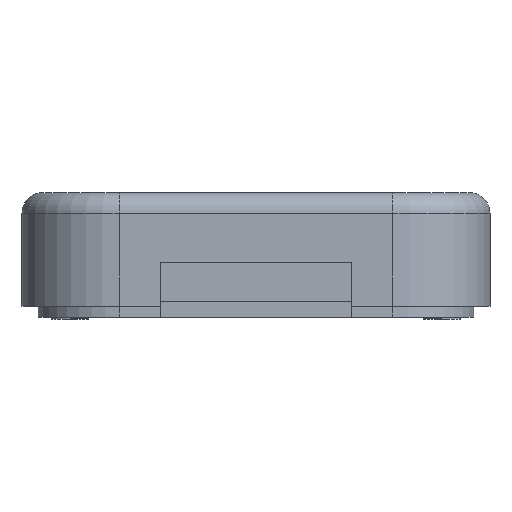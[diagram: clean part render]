
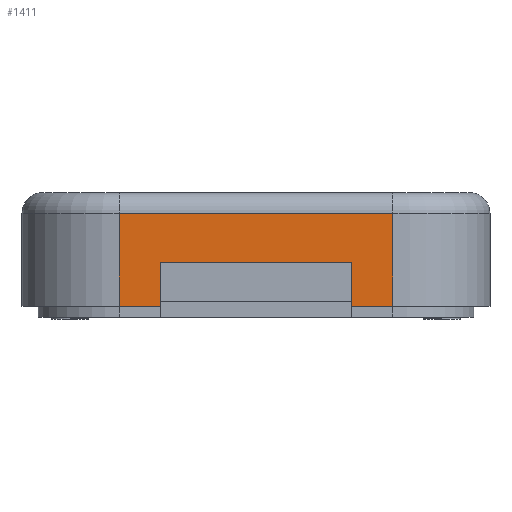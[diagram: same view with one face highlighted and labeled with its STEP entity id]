
A CAD part, front view. The second image highlights one B-rep face of the part: STEP entity #1411.
In plain terms, the highlighted planar face has unit normal (0, -1, 0).
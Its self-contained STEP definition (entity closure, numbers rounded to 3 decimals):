
#44 = CYLINDRICAL_SURFACE('',#45,17.8);
#45 = AXIS2_PLACEMENT_3D('',#46,#47,#48);
#46 = CARTESIAN_POINT('',(-25.,-49.,-12.8));
#47 = DIRECTION('',(0.,0.,1.));
#48 = DIRECTION('',(-1.,-0.,0.));
#71 = PLANE('',#72);
#72 = AXIS2_PLACEMENT_3D('',#73,#74,#75);
#73 = CARTESIAN_POINT('',(-100.,-110.,-8.));
#74 = DIRECTION('',(0.,0.,1.));
#75 = DIRECTION('',(1.,0.,0.));
#364 = VERTEX_POINT('',#365);
#365 = CARTESIAN_POINT('',(-25.,-66.8,-8.));
#387 = EDGE_CURVE('',#364,#388,#390,.T.);
#388 = VERTEX_POINT('',#389);
#389 = CARTESIAN_POINT('',(-25.,-66.8,9.));
#390 = SURFACE_CURVE('',#391,(#395,#402),.PCURVE_S1.);
#391 = LINE('',#392,#393);
#392 = CARTESIAN_POINT('',(-25.,-66.8,-12.8));
#393 = VECTOR('',#394,1.);
#394 = DIRECTION('',(0.,0.,1.));
#395 = PCURVE('',#44,#396);
#396 = DEFINITIONAL_REPRESENTATION('',(#397),#401);
#397 = LINE('',#398,#399);
#398 = CARTESIAN_POINT('',(1.571,0.));
#399 = VECTOR('',#400,1.);
#400 = DIRECTION('',(0.,1.));
#401 = ( GEOMETRIC_REPRESENTATION_CONTEXT(2) 
PARAMETRIC_REPRESENTATION_CONTEXT() REPRESENTATION_CONTEXT('2D SPACE',''
  ) );
#402 = PCURVE('',#403,#408);
#403 = PLANE('',#404);
#404 = AXIS2_PLACEMENT_3D('',#405,#406,#407);
#405 = CARTESIAN_POINT('',(-42.8,-66.8,-12.8));
#406 = DIRECTION('',(0.,1.,0.));
#407 = DIRECTION('',(0.,0.,1.));
#408 = DEFINITIONAL_REPRESENTATION('',(#409),#413);
#409 = LINE('',#410,#411);
#410 = CARTESIAN_POINT('',(0.,17.8));
#411 = VECTOR('',#412,1.);
#412 = DIRECTION('',(1.,0.));
#413 = ( GEOMETRIC_REPRESENTATION_CONTEXT(2) 
PARAMETRIC_REPRESENTATION_CONTEXT() REPRESENTATION_CONTEXT('2D SPACE',''
  ) );
#497 = EDGE_CURVE('',#364,#498,#500,.T.);
#498 = VERTEX_POINT('',#499);
#499 = CARTESIAN_POINT('',(-17.5,-66.8,-8.));
#500 = SURFACE_CURVE('',#501,(#505,#511),.PCURVE_S1.);
#501 = LINE('',#502,#503);
#502 = CARTESIAN_POINT('',(-71.4,-66.8,-8.));
#503 = VECTOR('',#504,1.);
#504 = DIRECTION('',(1.,0.,0.));
#505 = PCURVE('',#71,#506);
#506 = DEFINITIONAL_REPRESENTATION('',(#507),#510);
#507 = B_SPLINE_CURVE_WITH_KNOTS('',1,(#508,#509),.UNSPECIFIED.,.F.,.F.,
  (2,2),(46.4,96.4),.PIECEWISE_BEZIER_KNOTS.);
#508 = CARTESIAN_POINT('',(75.,43.2));
#509 = CARTESIAN_POINT('',(125.,43.2));
#510 = ( GEOMETRIC_REPRESENTATION_CONTEXT(2) 
PARAMETRIC_REPRESENTATION_CONTEXT() REPRESENTATION_CONTEXT('2D SPACE',''
  ) );
#511 = PCURVE('',#403,#512);
#512 = DEFINITIONAL_REPRESENTATION('',(#513),#516);
#513 = B_SPLINE_CURVE_WITH_KNOTS('',1,(#514,#515),.UNSPECIFIED.,.F.,.F.,
  (2,2),(46.4,96.4),.PIECEWISE_BEZIER_KNOTS.);
#514 = CARTESIAN_POINT('',(4.8,17.8));
#515 = CARTESIAN_POINT('',(4.8,67.8));
#516 = ( GEOMETRIC_REPRESENTATION_CONTEXT(2) 
PARAMETRIC_REPRESENTATION_CONTEXT() REPRESENTATION_CONTEXT('2D SPACE',''
  ) );
#533 = PLANE('',#534);
#534 = AXIS2_PLACEMENT_3D('',#535,#536,#537);
#535 = CARTESIAN_POINT('',(-17.5,-74.,-12.));
#536 = DIRECTION('',(1.,0.,0.));
#537 = DIRECTION('',(0.,0.,1.));
#1373 = CYLINDRICAL_SURFACE('',#1374,3.8);
#1374 = AXIS2_PLACEMENT_3D('',#1375,#1376,#1377);
#1375 = CARTESIAN_POINT('',(25.,-63.,9.));
#1376 = DIRECTION('',(-1.,-0.,-0.));
#1377 = DIRECTION('',(0.,-1.,0.));
#1411 = ADVANCED_FACE('',(#1412),#403,.F.);
#1412 = FACE_BOUND('',#1413,.F.);
#1413 = EDGE_LOOP('',(#1414,#1415,#1416,#1439,#1467,#1493,#1520,#1546));
#1414 = ORIENTED_EDGE('',*,*,#497,.F.);
#1415 = ORIENTED_EDGE('',*,*,#387,.T.);
#1416 = ORIENTED_EDGE('',*,*,#1417,.F.);
#1417 = EDGE_CURVE('',#1418,#388,#1420,.T.);
#1418 = VERTEX_POINT('',#1419);
#1419 = CARTESIAN_POINT('',(25.,-66.8,9.));
#1420 = SURFACE_CURVE('',#1421,(#1425,#1432),.PCURVE_S1.);
#1421 = LINE('',#1422,#1423);
#1422 = CARTESIAN_POINT('',(25.,-66.8,9.));
#1423 = VECTOR('',#1424,1.);
#1424 = DIRECTION('',(-1.,-0.,-0.));
#1425 = PCURVE('',#403,#1426);
#1426 = DEFINITIONAL_REPRESENTATION('',(#1427),#1431);
#1427 = LINE('',#1428,#1429);
#1428 = CARTESIAN_POINT('',(21.8,67.8));
#1429 = VECTOR('',#1430,1.);
#1430 = DIRECTION('',(-0.,-1.));
#1431 = ( GEOMETRIC_REPRESENTATION_CONTEXT(2) 
PARAMETRIC_REPRESENTATION_CONTEXT() REPRESENTATION_CONTEXT('2D SPACE',''
  ) );
#1432 = PCURVE('',#1373,#1433);
#1433 = DEFINITIONAL_REPRESENTATION('',(#1434),#1438);
#1434 = LINE('',#1435,#1436);
#1435 = CARTESIAN_POINT('',(0.,0.));
#1436 = VECTOR('',#1437,1.);
#1437 = DIRECTION('',(0.,1.));
#1438 = ( GEOMETRIC_REPRESENTATION_CONTEXT(2) 
PARAMETRIC_REPRESENTATION_CONTEXT() REPRESENTATION_CONTEXT('2D SPACE',''
  ) );
#1439 = ORIENTED_EDGE('',*,*,#1440,.F.);
#1440 = EDGE_CURVE('',#1441,#1418,#1443,.T.);
#1441 = VERTEX_POINT('',#1442);
#1442 = CARTESIAN_POINT('',(25.,-66.8,-8.));
#1443 = SURFACE_CURVE('',#1444,(#1448,#1455),.PCURVE_S1.);
#1444 = LINE('',#1445,#1446);
#1445 = CARTESIAN_POINT('',(25.,-66.8,-12.8));
#1446 = VECTOR('',#1447,1.);
#1447 = DIRECTION('',(0.,0.,1.));
#1448 = PCURVE('',#403,#1449);
#1449 = DEFINITIONAL_REPRESENTATION('',(#1450),#1454);
#1450 = LINE('',#1451,#1452);
#1451 = CARTESIAN_POINT('',(0.,67.8));
#1452 = VECTOR('',#1453,1.);
#1453 = DIRECTION('',(1.,0.));
#1454 = ( GEOMETRIC_REPRESENTATION_CONTEXT(2) 
PARAMETRIC_REPRESENTATION_CONTEXT() REPRESENTATION_CONTEXT('2D SPACE',''
  ) );
#1455 = PCURVE('',#1456,#1461);
#1456 = CYLINDRICAL_SURFACE('',#1457,17.8);
#1457 = AXIS2_PLACEMENT_3D('',#1458,#1459,#1460);
#1458 = CARTESIAN_POINT('',(25.,-49.,-12.8));
#1459 = DIRECTION('',(0.,0.,1.));
#1460 = DIRECTION('',(1.,0.,-0.));
#1461 = DEFINITIONAL_REPRESENTATION('',(#1462),#1466);
#1462 = LINE('',#1463,#1464);
#1463 = CARTESIAN_POINT('',(-1.571,0.));
#1464 = VECTOR('',#1465,1.);
#1465 = DIRECTION('',(-0.,1.));
#1466 = ( GEOMETRIC_REPRESENTATION_CONTEXT(2) 
PARAMETRIC_REPRESENTATION_CONTEXT() REPRESENTATION_CONTEXT('2D SPACE',''
  ) );
#1467 = ORIENTED_EDGE('',*,*,#1468,.F.);
#1468 = EDGE_CURVE('',#1469,#1441,#1471,.T.);
#1469 = VERTEX_POINT('',#1470);
#1470 = CARTESIAN_POINT('',(17.5,-66.8,-8.));
#1471 = SURFACE_CURVE('',#1472,(#1476,#1482),.PCURVE_S1.);
#1472 = LINE('',#1473,#1474);
#1473 = CARTESIAN_POINT('',(-71.4,-66.8,-8.));
#1474 = VECTOR('',#1475,1.);
#1475 = DIRECTION('',(1.,0.,0.));
#1476 = PCURVE('',#403,#1477);
#1477 = DEFINITIONAL_REPRESENTATION('',(#1478),#1481);
#1478 = B_SPLINE_CURVE_WITH_KNOTS('',1,(#1479,#1480),.UNSPECIFIED.,.F.,
  .F.,(2,2),(46.4,96.4),.PIECEWISE_BEZIER_KNOTS.);
#1479 = CARTESIAN_POINT('',(4.8,17.8));
#1480 = CARTESIAN_POINT('',(4.8,67.8));
#1481 = ( GEOMETRIC_REPRESENTATION_CONTEXT(2) 
PARAMETRIC_REPRESENTATION_CONTEXT() REPRESENTATION_CONTEXT('2D SPACE',''
  ) );
#1482 = PCURVE('',#1483,#1488);
#1483 = PLANE('',#1484);
#1484 = AXIS2_PLACEMENT_3D('',#1485,#1486,#1487);
#1485 = CARTESIAN_POINT('',(-100.,-110.,-8.));
#1486 = DIRECTION('',(0.,0.,1.));
#1487 = DIRECTION('',(1.,0.,0.));
#1488 = DEFINITIONAL_REPRESENTATION('',(#1489),#1492);
#1489 = B_SPLINE_CURVE_WITH_KNOTS('',1,(#1490,#1491),.UNSPECIFIED.,.F.,
  .F.,(2,2),(46.4,96.4),.PIECEWISE_BEZIER_KNOTS.);
#1490 = CARTESIAN_POINT('',(75.,43.2));
#1491 = CARTESIAN_POINT('',(125.,43.2));
#1492 = ( GEOMETRIC_REPRESENTATION_CONTEXT(2) 
PARAMETRIC_REPRESENTATION_CONTEXT() REPRESENTATION_CONTEXT('2D SPACE',''
  ) );
#1493 = ORIENTED_EDGE('',*,*,#1494,.F.);
#1494 = EDGE_CURVE('',#1495,#1469,#1497,.T.);
#1495 = VERTEX_POINT('',#1496);
#1496 = CARTESIAN_POINT('',(17.5,-66.8,0.));
#1497 = SURFACE_CURVE('',#1498,(#1502,#1508),.PCURVE_S1.);
#1498 = LINE('',#1499,#1500);
#1499 = CARTESIAN_POINT('',(17.5,-66.8,-12.4));
#1500 = VECTOR('',#1501,1.);
#1501 = DIRECTION('',(0.,0.,-1.));
#1502 = PCURVE('',#403,#1503);
#1503 = DEFINITIONAL_REPRESENTATION('',(#1504),#1507);
#1504 = B_SPLINE_CURVE_WITH_KNOTS('',1,(#1505,#1506),.UNSPECIFIED.,.F.,
  .F.,(2,2),(-12.4,-4.4),.PIECEWISE_BEZIER_KNOTS.);
#1505 = CARTESIAN_POINT('',(12.8,60.3));
#1506 = CARTESIAN_POINT('',(4.8,60.3));
#1507 = ( GEOMETRIC_REPRESENTATION_CONTEXT(2) 
PARAMETRIC_REPRESENTATION_CONTEXT() REPRESENTATION_CONTEXT('2D SPACE',''
  ) );
#1508 = PCURVE('',#1509,#1514);
#1509 = PLANE('',#1510);
#1510 = AXIS2_PLACEMENT_3D('',#1511,#1512,#1513);
#1511 = CARTESIAN_POINT('',(17.5,-74.,-12.));
#1512 = DIRECTION('',(1.,0.,0.));
#1513 = DIRECTION('',(0.,0.,1.));
#1514 = DEFINITIONAL_REPRESENTATION('',(#1515),#1519);
#1515 = LINE('',#1516,#1517);
#1516 = CARTESIAN_POINT('',(-0.4,-7.2));
#1517 = VECTOR('',#1518,1.);
#1518 = DIRECTION('',(-1.,0.));
#1519 = ( GEOMETRIC_REPRESENTATION_CONTEXT(2) 
PARAMETRIC_REPRESENTATION_CONTEXT() REPRESENTATION_CONTEXT('2D SPACE',''
  ) );
#1520 = ORIENTED_EDGE('',*,*,#1521,.F.);
#1521 = EDGE_CURVE('',#1522,#1495,#1524,.T.);
#1522 = VERTEX_POINT('',#1523);
#1523 = CARTESIAN_POINT('',(-17.5,-66.8,0.));
#1524 = SURFACE_CURVE('',#1525,(#1529,#1535),.PCURVE_S1.);
#1525 = LINE('',#1526,#1527);
#1526 = CARTESIAN_POINT('',(-30.15,-66.8,0.));
#1527 = VECTOR('',#1528,1.);
#1528 = DIRECTION('',(1.,0.,0.));
#1529 = PCURVE('',#403,#1530);
#1530 = DEFINITIONAL_REPRESENTATION('',(#1531),#1534);
#1531 = B_SPLINE_CURVE_WITH_KNOTS('',1,(#1532,#1533),.UNSPECIFIED.,.F.,
  .F.,(2,2),(12.65,47.65),.PIECEWISE_BEZIER_KNOTS.);
#1532 = CARTESIAN_POINT('',(12.8,25.3));
#1533 = CARTESIAN_POINT('',(12.8,60.3));
#1534 = ( GEOMETRIC_REPRESENTATION_CONTEXT(2) 
PARAMETRIC_REPRESENTATION_CONTEXT() REPRESENTATION_CONTEXT('2D SPACE',''
  ) );
#1535 = PCURVE('',#1536,#1541);
#1536 = PLANE('',#1537);
#1537 = AXIS2_PLACEMENT_3D('',#1538,#1539,#1540);
#1538 = CARTESIAN_POINT('',(-17.5,-74.,0.));
#1539 = DIRECTION('',(0.,0.,1.));
#1540 = DIRECTION('',(1.,0.,0.));
#1541 = DEFINITIONAL_REPRESENTATION('',(#1542),#1545);
#1542 = B_SPLINE_CURVE_WITH_KNOTS('',1,(#1543,#1544),.UNSPECIFIED.,.F.,
  .F.,(2,2),(12.65,47.65),.PIECEWISE_BEZIER_KNOTS.);
#1543 = CARTESIAN_POINT('',(0.,7.2));
#1544 = CARTESIAN_POINT('',(35.,7.2));
#1545 = ( GEOMETRIC_REPRESENTATION_CONTEXT(2) 
PARAMETRIC_REPRESENTATION_CONTEXT() REPRESENTATION_CONTEXT('2D SPACE',''
  ) );
#1546 = ORIENTED_EDGE('',*,*,#1547,.T.);
#1547 = EDGE_CURVE('',#1522,#498,#1548,.T.);
#1548 = SURFACE_CURVE('',#1549,(#1553,#1559),.PCURVE_S1.);
#1549 = LINE('',#1550,#1551);
#1550 = CARTESIAN_POINT('',(-17.5,-66.8,-12.4));
#1551 = VECTOR('',#1552,1.);
#1552 = DIRECTION('',(0.,0.,-1.));
#1553 = PCURVE('',#403,#1554);
#1554 = DEFINITIONAL_REPRESENTATION('',(#1555),#1558);
#1555 = B_SPLINE_CURVE_WITH_KNOTS('',1,(#1556,#1557),.UNSPECIFIED.,.F.,
  .F.,(2,2),(-12.4,-4.4),.PIECEWISE_BEZIER_KNOTS.);
#1556 = CARTESIAN_POINT('',(12.8,25.3));
#1557 = CARTESIAN_POINT('',(4.8,25.3));
#1558 = ( GEOMETRIC_REPRESENTATION_CONTEXT(2) 
PARAMETRIC_REPRESENTATION_CONTEXT() REPRESENTATION_CONTEXT('2D SPACE',''
  ) );
#1559 = PCURVE('',#533,#1560);
#1560 = DEFINITIONAL_REPRESENTATION('',(#1561),#1565);
#1561 = LINE('',#1562,#1563);
#1562 = CARTESIAN_POINT('',(-0.4,-7.2));
#1563 = VECTOR('',#1564,1.);
#1564 = DIRECTION('',(-1.,0.));
#1565 = ( GEOMETRIC_REPRESENTATION_CONTEXT(2) 
PARAMETRIC_REPRESENTATION_CONTEXT() REPRESENTATION_CONTEXT('2D SPACE',''
  ) );
